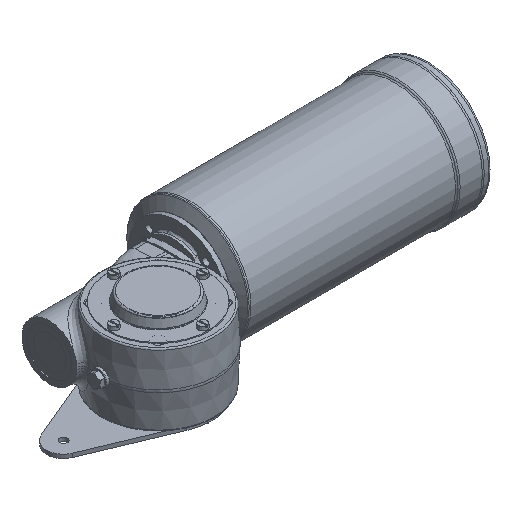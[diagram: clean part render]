
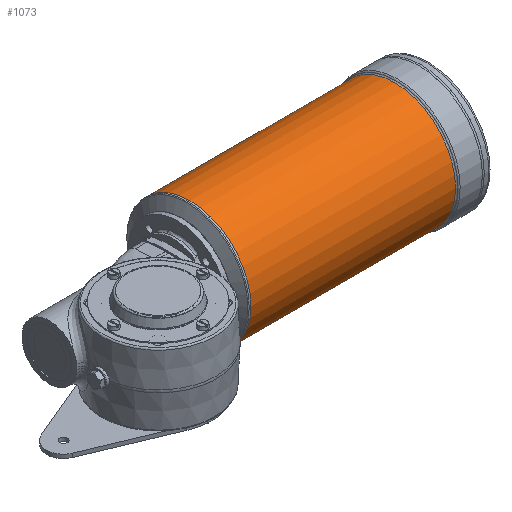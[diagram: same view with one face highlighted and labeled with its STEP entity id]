
A CAD part, isometric view. The second image highlights one B-rep face of the part: STEP entity #1073.
In plain terms, the highlighted cylindrical face has radius 64.5 mm (diameter 129 mm), a full revolution.
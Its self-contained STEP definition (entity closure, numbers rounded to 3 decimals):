
#1073 = ADVANCED_FACE( '', ( #2631, #2632 ), #2633, .T. );
#2631 = FACE_OUTER_BOUND( '', #5926, .T. );
#2632 = FACE_OUTER_BOUND( '', #5927, .T. );
#2633 = CYLINDRICAL_SURFACE( '', #5928, 64.5 );
#5926 = EDGE_LOOP( '', ( #10478 ) );
#5927 = EDGE_LOOP( '', ( #10479 ) );
#5928 = AXIS2_PLACEMENT_3D( '', #10480, #10481, #10482 );
#10478 = ORIENTED_EDGE( '', *, *, #13566, .T. );
#10479 = ORIENTED_EDGE( '', *, *, #14142, .T. );
#10480 = CARTESIAN_POINT( '', ( 243.668, 50., 0. ) );
#10481 = DIRECTION( '', ( -1., 0., 0. ) );
#10482 = DIRECTION( '', ( 0., 1., 0. ) );
#13566 = EDGE_CURVE( '', #15451, #15451, #15452, .F. );
#14142 = EDGE_CURVE( '', #16343, #16343, #16344, .T. );
#15451 = VERTEX_POINT( '', #18325 );
#15452 = CIRCLE( '', #18326, 64.5 );
#16343 = VERTEX_POINT( '', #20200 );
#16344 = CIRCLE( '', #20201, 64.5 );
#18325 = CARTESIAN_POINT( '', ( 299.672, 114.5, 0. ) );
#18326 = AXIS2_PLACEMENT_3D( '', #22733, #22734, #22735 );
#20200 = CARTESIAN_POINT( '', ( 83.5, 114.5, 0. ) );
#20201 = AXIS2_PLACEMENT_3D( '', #23459, #23460, #23461 );
#22733 = CARTESIAN_POINT( '', ( 299.672, 50., 0. ) );
#22734 = DIRECTION( '', ( 1., 0., 0. ) );
#22735 = DIRECTION( '', ( 0., 1., 0. ) );
#23459 = CARTESIAN_POINT( '', ( 83.5, 50., 0. ) );
#23460 = DIRECTION( '', ( 1., 0., 0. ) );
#23461 = DIRECTION( '', ( 0., 1., 0. ) );
